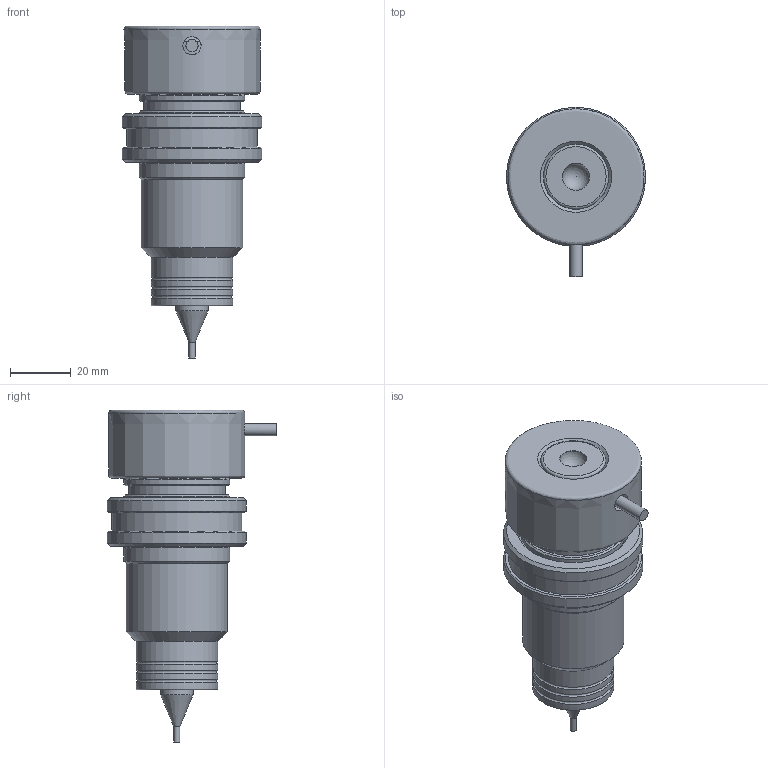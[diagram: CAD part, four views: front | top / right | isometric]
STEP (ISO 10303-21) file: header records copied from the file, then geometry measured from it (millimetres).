
FILE_DESCRIPTION(('STEP AP214'),'1');
FILE_NAME('IPM400-A.stp','2018-06-12T15:53:03',(' '),(' '),'Spatial InterOp 3D',' ',' ');
FILE_SCHEMA(('AUTOMOTIVE_DESIGN { 1 0 10303 214 1 1 1 1 }'));
Length unit declared in the file: millimetre
Products named in the file (1): 1
Bounding box: 46 x 56 x 109.75 mm (x, y, z)
Volume: 85454.1 mm3; surface area: 32793.7 mm2
Topology: 4 solids, 4 shells, 86 faces, 159 edges, 93 vertices
Faces by surface type: cylinder 29, plane 21, cone 19, torus 10, revolution 6, sphere 1
Full cylindrical faces by diameter (mm): 2 x1, 4 x1, 4.55 x1, 6 x1, 6.6 x1, 7 x2, 9 x1, 10.7 x1, 10.72 x1, 11 x1, 20 x1, 21.5 x1, 26 x2, 27 x3, 31 x1, 32 x1, 33.5 x1, 35 x5, 43 x1, 46 x2
Entity records: 2722 total; most frequent: CARTESIAN_POINT 552, DIRECTION 338, ORIENTED_EDGE 172, EDGE_LOOP 169, AXIS2_PLACEMENT_3D 166, FACE_OUTER_BOUND 131, STYLED_ITEM 86, PRESENTATION_STYLE_ASSIGNMENT 86
